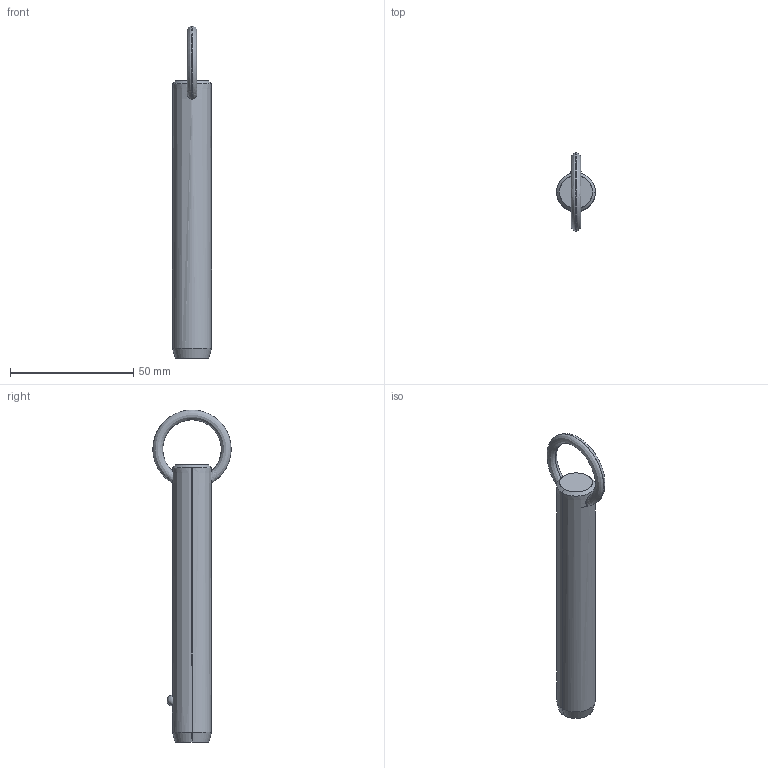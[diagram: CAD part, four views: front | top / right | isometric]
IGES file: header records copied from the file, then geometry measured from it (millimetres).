
Start section: SolidWorks IGES file using analytic representation for surfaces
Global section: file name: C:\Users\liam_\OneDrive\Documents\WORK\Work for WixRoyd\Job Files\J-00019 - Matt Davis CAD Checking\04. CAD Drawings\automotion20190605\P1250.2_v2\P1250.2_v2_20190729_IGES\P1250.062-330.igs; native system: SolidWorks 2017; preprocessor: SolidWorks 2017; author: liam_; date: 190729.233509; units: millimetre
Bounding box: 15.8 x 31.7 x 134.5 mm (x, y, z)
Surface area: 6748.1 mm2 (no closed solid volume)
Topology: 0 solids, 0 shells, 12 faces, 292 edges, 290 vertices
Faces by surface type: revolution 8, bspline 4
